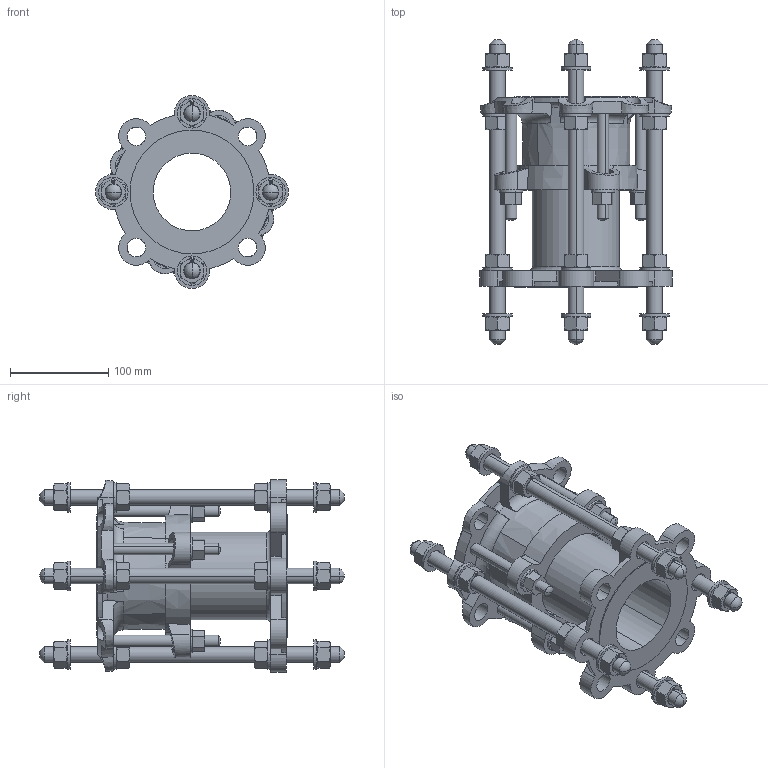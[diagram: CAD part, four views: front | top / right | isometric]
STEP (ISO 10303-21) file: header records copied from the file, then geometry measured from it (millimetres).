
FILE_DESCRIPTION((''),'2;1');
FILE_NAME('BIM_10435_396_ASM','2020-12-11T',('MReader'),(''),'CREO PARAMETRIC BY PTC INC, 2016130','CREO PARAMETRIC BY PTC INC, 2016130','');
FILE_SCHEMA(('CONFIG_CONTROL_DESIGN'));
Length unit declared in the file: millimetre
Products named in the file (9): BIM_12485; BIM_12518_04; BIM_12501_03_ASM; NEW_BIM_13519; 300_TIE_BOLT; 10467_4; 12442_6; M16_NUT_WASHER_ASM; BIM_10435_396_ASM
Assembly tree (26 placements, depth 3):
  BIM_10435_396_ASM
    BIM_12501_03_ASM
      BIM_12485
      BIM_12518_04
    NEW_BIM_13519
    300_TIE_BOLT  x4
    M16_NUT_WASHER_ASM  x16
      10467_4
      12442_6
Bounding box: 196 x 310 x 196 mm (x, y, z)
Volume: 1286710.3 mm3; surface area: 424958.7 mm2
Topology: 39 solids, 55 shells, 1812 faces, 4836 edges, 3104 vertices
Faces by surface type: plane 1240, cone 296, cylinder 230, sphere 24, torus 14, bspline 8
Entity records: 13068 total; most frequent: CARTESIAN_POINT 3414, DIRECTION 1989, ORIENTED_EDGE 1970, EDGE_CURVE 987, AXIS2_PLACEMENT_3D 744, VERTEX_POINT 641, VECTOR 501, LINE 501
